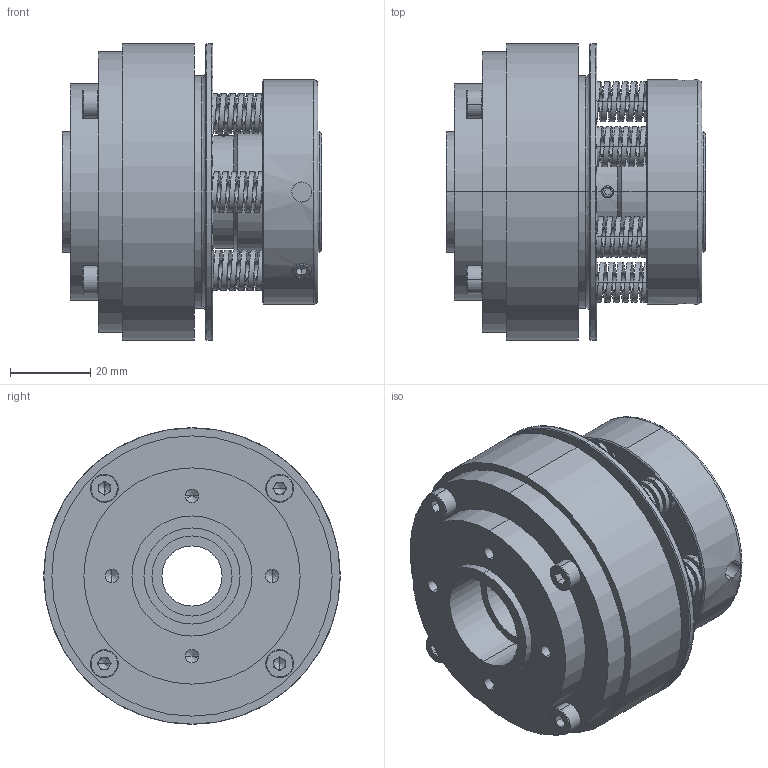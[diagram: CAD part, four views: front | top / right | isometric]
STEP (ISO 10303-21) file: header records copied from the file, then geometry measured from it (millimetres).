
FILE_DESCRIPTION (( 'STEP AP203' ), '1' );
FILE_NAME ('STL25F-M-TS5-N15.STEP', '2019-03-12T02:02:09', ( '' ), ( '' ), 'SwSTEP 2.0', 'SolidWorks 2015', '' );
FILE_SCHEMA (( 'CONFIG_CONTROL_DESIGN' ));
Length unit declared in the file: millimetre
Products named in the file (1): STL25F-M-TS5-N15
Bounding box: 64.8 x 74 x 74 mm (x, y, z)
Volume: 153123.7 mm3; surface area: 43549.5 mm2
Topology: 1 solids, 7 shells, 584 faces, 1566 edges, 1004 vertices
Faces by surface type: cylinder 346, plane 156, bspline 44, cone 38
Entity records: 53237 total; most frequent: CARTESIAN_POINT 39455, ORIENTED_EDGE 3092, DIRECTION 2514, EDGE_CURVE 1546, VERTEX_POINT 1004, AXIS2_PLACEMENT_3D 941, EDGE_LOOP 646, LINE 632
